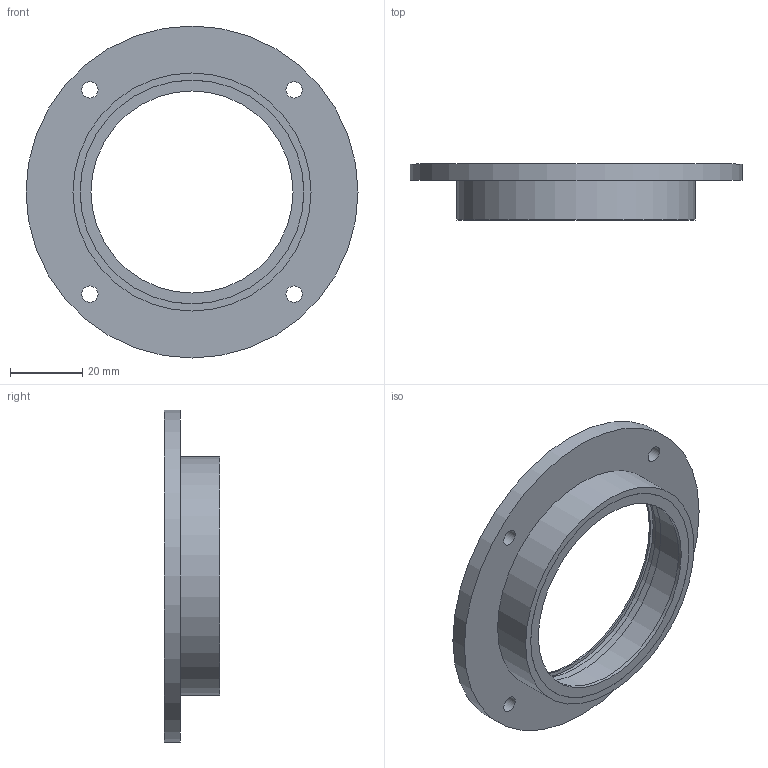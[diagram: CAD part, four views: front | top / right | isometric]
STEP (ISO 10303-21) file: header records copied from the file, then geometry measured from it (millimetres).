
FILE_DESCRIPTION(('Open CASCADE Model'),'2;1');
FILE_NAME('Open CASCADE Shape Model','2026-10-18T22:58:28',('Author'),( 'Open CASCADE'),'Open CASCADE STEP processor 7.9','Open CASCADE 7.9' ,'Unknown');
FILE_SCHEMA(('AUTOMOTIVE_DESIGN { 1 0 10303 214 1 1 1 1 }'));
Length unit declared in the file: millimetre
Products named in the file (1): Open CASCADE STEP translator 7.9 26
Bounding box: 92 x 15.5 x 92 mm (x, y, z)
Volume: 20602.9 mm3; surface area: 15485.8 mm2
Topology: 1 solids, 1 shells, 19 faces, 34 edges, 23 vertices
Faces by surface type: cylinder 11, plane 8
Full cylindrical faces by diameter (mm): 4.5 x4, 56 x1, 62 x3, 64 x1, 65.98 x1, 92 x1
Entity records: 974 total; most frequent: CARTESIAN_POINT 194, DIRECTION 156, ORIENTED_EDGE 68, PCURVE 68, DEFINITIONAL_REPRESENTATION 68, LINE 54, VECTOR 54, AXIS2_PLACEMENT_3D 43
